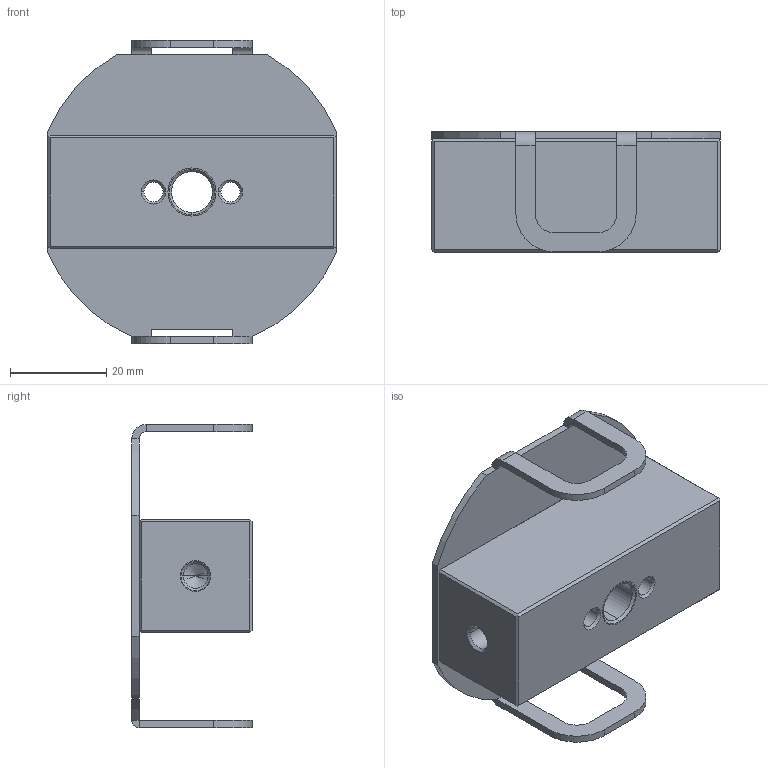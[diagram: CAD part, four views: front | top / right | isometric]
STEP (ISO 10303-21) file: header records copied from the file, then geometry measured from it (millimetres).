
FILE_DESCRIPTION((''),'2;1');
FILE_NAME('GLP-21035_ASM','2021-01-18T09:37:15',('Michael.Spatz'),(''),'CREO PARAMETRIC BY PTC INC, 2018500','CREO PARAMETRIC BY PTC INC, 2018500','');
FILE_SCHEMA(('AUTOMOTIVE_DESIGN { 1 0 10303 214 1 1 1 1 }'));
Length unit declared in the file: millimetre
Products named in the file (4): GLP-13416; GLP-13417; GLP-10026; GLP-21035_ASM
Assembly tree (4 placements, depth 2):
  GLP-21035_ASM
    GLP-13416
    GLP-13417
    GLP-10026  x2
Bounding box: 60 x 25 x 63 mm (x, y, z)
Volume: 34959.7 mm3; surface area: 17935.5 mm2
Topology: 4 solids, 12 shells, 223 faces, 514 edges, 320 vertices
Faces by surface type: plane 119, cylinder 64, cone 40
Entity records: 9842 total; most frequent: DIRECTION 1092, CARTESIAN_POINT 1036, ORIENTED_EDGE 832, PRESENTATION_STYLE_ASSIGNMENT 630, STYLED_ITEM 630, CURVE_STYLE 475, EDGE_CURVE 430, AXIS2_PLACEMENT_3D 386
